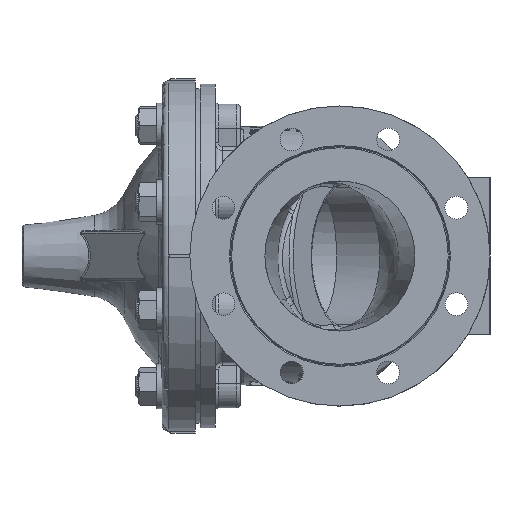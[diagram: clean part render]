
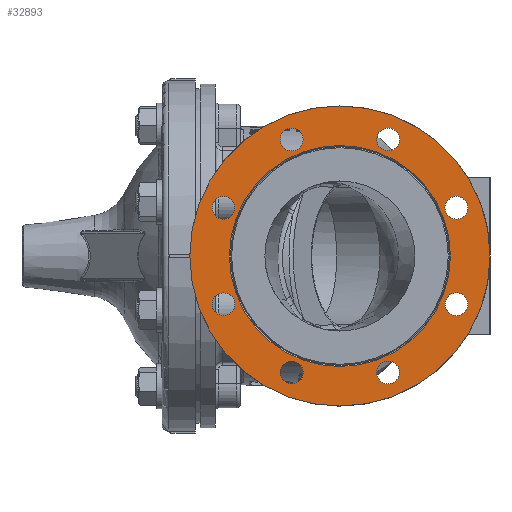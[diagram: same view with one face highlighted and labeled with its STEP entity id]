
A CAD part, left-side view. The second image highlights one B-rep face of the part: STEP entity #32893.
In plain terms, the highlighted planar face has unit normal (-1, 0, 0).
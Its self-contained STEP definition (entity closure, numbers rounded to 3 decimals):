
#2654=FACE_BOUND('',#7894,.T.);
#2655=FACE_BOUND('',#7895,.T.);
#2656=FACE_BOUND('',#7896,.T.);
#2657=FACE_BOUND('',#7897,.T.);
#2658=FACE_BOUND('',#7898,.T.);
#2659=FACE_BOUND('',#7899,.T.);
#2660=FACE_BOUND('',#7900,.T.);
#2661=FACE_BOUND('',#7901,.T.);
#2662=FACE_BOUND('',#7902,.T.);
#3893=CIRCLE('',#35745,9.5);
#3894=CIRCLE('',#35747,9.5);
#3895=CIRCLE('',#35749,9.5);
#3896=CIRCLE('',#35751,9.5);
#3897=CIRCLE('',#35753,9.5);
#3898=CIRCLE('',#35755,9.5);
#3899=CIRCLE('',#35757,9.5);
#3900=CIRCLE('',#35759,9.5);
#3901=CIRCLE('',#35761,92.);
#3902=CIRCLE('',#35763,125.);
#5873=FACE_OUTER_BOUND('',#7893,.T.);
#7893=EDGE_LOOP('',(#28282));
#7894=EDGE_LOOP('',(#28283));
#7895=EDGE_LOOP('',(#28284));
#7896=EDGE_LOOP('',(#28285));
#7897=EDGE_LOOP('',(#28286));
#7898=EDGE_LOOP('',(#28287));
#7899=EDGE_LOOP('',(#28288));
#7900=EDGE_LOOP('',(#28289));
#7901=EDGE_LOOP('',(#28290));
#7902=EDGE_LOOP('',(#28291));
#14830=VERTEX_POINT('',#90365);
#14831=VERTEX_POINT('',#90369);
#14832=VERTEX_POINT('',#90373);
#14833=VERTEX_POINT('',#90377);
#14834=VERTEX_POINT('',#90381);
#14835=VERTEX_POINT('',#90385);
#14836=VERTEX_POINT('',#90389);
#14837=VERTEX_POINT('',#90393);
#14838=VERTEX_POINT('',#90397);
#14839=VERTEX_POINT('',#90401);
#19471=EDGE_CURVE('',#14830,#14830,#3893,.T.);
#19473=EDGE_CURVE('',#14831,#14831,#3894,.T.);
#19475=EDGE_CURVE('',#14832,#14832,#3895,.T.);
#19477=EDGE_CURVE('',#14833,#14833,#3896,.T.);
#19479=EDGE_CURVE('',#14834,#14834,#3897,.T.);
#19481=EDGE_CURVE('',#14835,#14835,#3898,.T.);
#19483=EDGE_CURVE('',#14836,#14836,#3899,.T.);
#19485=EDGE_CURVE('',#14837,#14837,#3900,.T.);
#19487=EDGE_CURVE('',#14838,#14838,#3901,.T.);
#19489=EDGE_CURVE('',#14839,#14839,#3902,.T.);
#28282=ORIENTED_EDGE('',*,*,#19489,.F.);
#28283=ORIENTED_EDGE('',*,*,#19471,.T.);
#28284=ORIENTED_EDGE('',*,*,#19473,.T.);
#28285=ORIENTED_EDGE('',*,*,#19475,.T.);
#28286=ORIENTED_EDGE('',*,*,#19477,.T.);
#28287=ORIENTED_EDGE('',*,*,#19479,.T.);
#28288=ORIENTED_EDGE('',*,*,#19481,.T.);
#28289=ORIENTED_EDGE('',*,*,#19483,.T.);
#28290=ORIENTED_EDGE('',*,*,#19485,.T.);
#28291=ORIENTED_EDGE('',*,*,#19487,.F.);
#31220=PLANE('',#35762);
#32893=ADVANCED_FACE('',(#5873,#2654,#2655,#2656,#2657,#2658,#2659,#2660,
#2661,#2662),#31220,.F.);
#35745=AXIS2_PLACEMENT_3D('',#90366,#42186,#42187);
#35747=AXIS2_PLACEMENT_3D('',#90370,#42191,#42192);
#35749=AXIS2_PLACEMENT_3D('',#90374,#42196,#42197);
#35751=AXIS2_PLACEMENT_3D('',#90378,#42201,#42202);
#35753=AXIS2_PLACEMENT_3D('',#90382,#42206,#42207);
#35755=AXIS2_PLACEMENT_3D('',#90386,#42211,#42212);
#35757=AXIS2_PLACEMENT_3D('',#90390,#42216,#42217);
#35759=AXIS2_PLACEMENT_3D('',#90394,#42221,#42222);
#35761=AXIS2_PLACEMENT_3D('',#90398,#42226,#42227);
#35762=AXIS2_PLACEMENT_3D('',#90400,#42229,#42230);
#35763=AXIS2_PLACEMENT_3D('',#90402,#42231,#42232);
#42186=DIRECTION('center_axis',(1.,0.,0.));
#42187=DIRECTION('ref_axis',(0.,0.707,0.707));
#42191=DIRECTION('center_axis',(1.,0.,0.));
#42192=DIRECTION('ref_axis',(0.,1.,0.));
#42196=DIRECTION('center_axis',(1.,0.,0.));
#42197=DIRECTION('ref_axis',(0.,0.707,-0.707));
#42201=DIRECTION('center_axis',(1.,0.,0.));
#42202=DIRECTION('ref_axis',(0.,0.,
-1.));
#42206=DIRECTION('center_axis',(1.,0.,0.));
#42207=DIRECTION('ref_axis',(0.,-0.707,-0.707));
#42211=DIRECTION('center_axis',(1.,0.,0.));
#42212=DIRECTION('ref_axis',(0.,-1.,0.));
#42216=DIRECTION('center_axis',(1.,0.,0.));
#42217=DIRECTION('ref_axis',(0.,-0.707,0.707));
#42221=DIRECTION('center_axis',(1.,0.,0.));
#42222=DIRECTION('ref_axis',(0.,0.,1.));
#42226=DIRECTION('center_axis',(-1.,0.,0.));
#42227=DIRECTION('ref_axis',(0.,0.,-1.));
#42229=DIRECTION('center_axis',(1.,0.,0.));
#42230=DIRECTION('ref_axis',(0.,0.,-1.));
#42231=DIRECTION('center_axis',(1.,0.,0.));
#42232=DIRECTION('ref_axis',(0.,0.,-1.));
#90365=CARTESIAN_POINT('',(-197.,-103.725,-46.899));
#90366=CARTESIAN_POINT('Origin',(-197.,-97.007,-40.182));
#90369=CARTESIAN_POINT('',(-197.,-106.507,40.182));
#90370=CARTESIAN_POINT('Origin',(-197.,-97.007,40.182));
#90373=CARTESIAN_POINT('',(-197.,-46.899,103.725));
#90374=CARTESIAN_POINT('Origin',(-197.,-40.182,97.007));
#90377=CARTESIAN_POINT('',(-197.,40.182,106.507));
#90378=CARTESIAN_POINT('Origin',(-197.,40.182,97.007));
#90381=CARTESIAN_POINT('',(-197.,103.725,46.899));
#90382=CARTESIAN_POINT('Origin',(-197.,97.007,40.182));
#90385=CARTESIAN_POINT('',(-197.,106.507,-40.182));
#90386=CARTESIAN_POINT('Origin',(-197.,97.007,-40.182));
#90389=CARTESIAN_POINT('',(-197.,46.899,-103.725));
#90390=CARTESIAN_POINT('Origin',(-197.,40.182,-97.007));
#90393=CARTESIAN_POINT('',(-197.,-40.182,-106.507));
#90394=CARTESIAN_POINT('Origin',(-197.,-40.182,-97.007));
#90397=CARTESIAN_POINT('',(-197.,0.,92.));
#90398=CARTESIAN_POINT('Origin',(-197.,0.,0.));
#90400=CARTESIAN_POINT('Origin',(-197.,0.,0.));
#90401=CARTESIAN_POINT('',(-197.,0.,125.));
#90402=CARTESIAN_POINT('Origin',(-197.,0.,0.));
